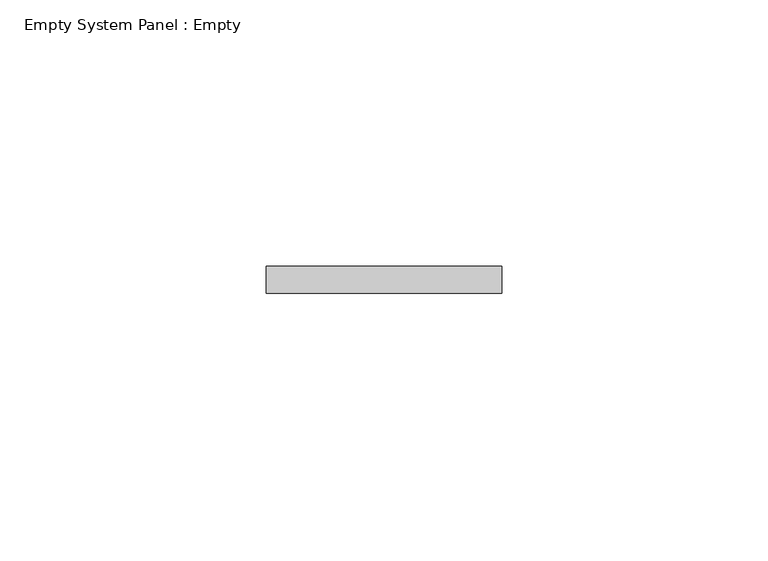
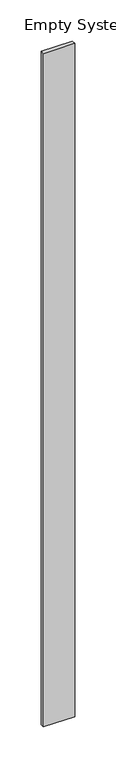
"""IFC4 building model written with IfcOpenShell, lengths in millimetres: plate geometry, Empty System Panel : Empty."""

from ifc_helpers import new_model, si_unit, origin, origin_with_axes, place, context, project, spatial, polyline, outline, extrude, source, transform, mapped, element, save


def empty_system_panel_empty_86054d0e(model_context):
    return source(origin(), model_context, "Body", "SweptSolid", [
        extrude(outline(polyline([(22.0499998, -102.5), (-22.0499998, -102.5), (-22.0499998, -97.5), (22.0499998, -97.5), (22.0499998, -102.5)])), origin_with_axes(), (0.0, 0.0, 1.0), 1000.0),
    ])


if __name__ == "__main__":
    model = new_model("IFC4")
    model_context = context("Model", 3, world=origin())
    ifc_project = project(units=[si_unit("LENGTHUNIT", "METRE", prefix="MILLI")], contexts=[model_context])
    site = spatial("IfcSite", under=ifc_project)
    building = spatial("IfcBuilding", under=site)
    placement = place(None, origin())
    empty_system_panel_empty_shape = empty_system_panel_empty_86054d0e(model_context)
    element("IfcPlate", 1, ObjectType="Empty System Panel : Empty", at=placement, inside=building, context=model_context, shape_type="MappedRepresentation", body=[
        mapped(empty_system_panel_empty_shape, transform((0.0, 0.0, 0.0), x_axis=(1.0, 0.0, 0.0), y_axis=(0.0, 1.0, 0.0), z_axis=(0.0, 0.0, 1.0))),
    ])
    save(model, "model.ifc")
